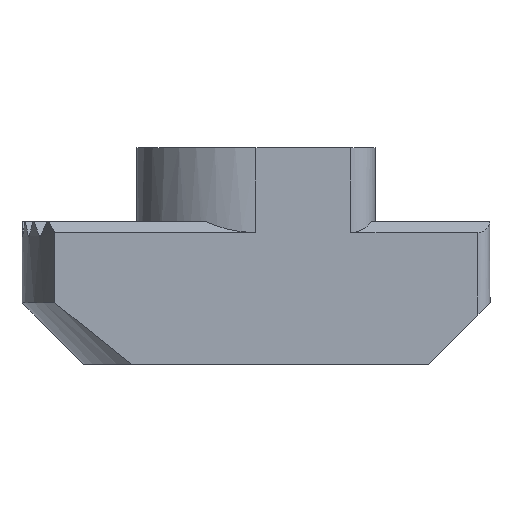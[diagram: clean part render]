
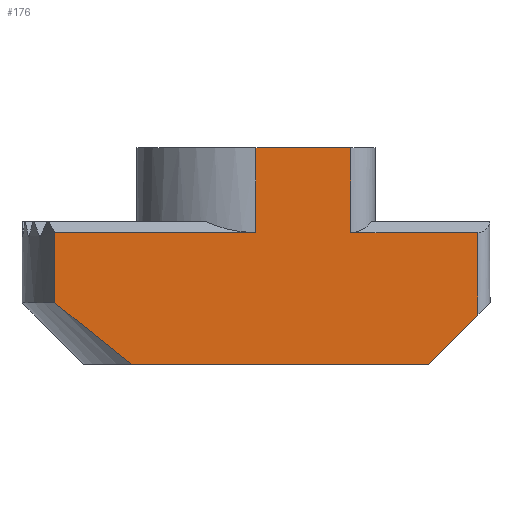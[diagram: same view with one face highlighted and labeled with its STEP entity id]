
A CAD part, front view. The second image highlights one B-rep face of the part: STEP entity #176.
In plain terms, the highlighted planar face has unit normal (0, -1, 0).
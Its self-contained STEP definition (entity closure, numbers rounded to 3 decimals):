
#53 = EDGE_CURVE ( 'NONE', #2340, #326, #634, .T. ) ;
#103 = LINE ( 'NONE', #2466, #2059 ) ;
#122 = VECTOR ( 'NONE', #1669, 1000. ) ;
#176 = ADVANCED_FACE ( 'NONE', ( #2188 ), #913, .T. ) ;
#222 = CARTESIAN_POINT ( 'NONE',  ( 3.85, -4.85, -0.45 ) ) ;
#326 = VERTEX_POINT ( 'NONE', #1154 ) ;
#344 = CARTESIAN_POINT ( 'NONE',  ( 0., -4.85, 3. ) ) ;
#381 = EDGE_CURVE ( 'NONE', #842, #902, #1631, .T. ) ;
#403 = VERTEX_POINT ( 'NONE', #2659 ) ;
#421 = DIRECTION ( 'NONE',  ( -0.78, 0., 0.625 ) ) ;
#461 = DIRECTION ( 'NONE',  ( 0., 0., -1. ) ) ;
#550 = EDGE_LOOP ( 'NONE', ( #1269, #1195, #2757, #2193, #1833, #1851, #1048, #2338, #738, #887 ) ) ;
#575 = LINE ( 'NONE', #778, #1423 ) ;
#634 = LINE ( 'NONE', #1650, #1197 ) ;
#635 = LINE ( 'NONE', #2083, #122 ) ;
#672 = EDGE_CURVE ( 'NONE', #1309, #2043, #2206, .T. ) ;
#694 = DIRECTION ( 'NONE',  ( 1., 0., 0. ) ) ;
#706 = DIRECTION ( 'NONE',  ( 0., 0., -1. ) ) ;
#738 = ORIENTED_EDGE ( 'NONE', *, *, #53, .F. ) ;
#773 = CARTESIAN_POINT ( 'NONE',  ( 0., -4.85, -0.45 ) ) ;
#778 = CARTESIAN_POINT ( 'NONE',  ( -8.169, -4.85, -3.3 ) ) ;
#806 = DIRECTION ( 'NONE',  ( 0., 0., 1. ) ) ;
#839 = CARTESIAN_POINT ( 'NONE',  ( 9., -4.85, -3.8 ) ) ;
#842 = VERTEX_POINT ( 'NONE', #1872 ) ;
#856 = VECTOR ( 'NONE', #1873, 1000. ) ;
#887 = ORIENTED_EDGE ( 'NONE', *, *, #2636, .T. ) ;
#902 = VERTEX_POINT ( 'NONE', #222 ) ;
#913 = PLANE ( 'NONE',  #1826 ) ;
#920 = DIRECTION ( 'NONE',  ( 0., -1., 0. ) ) ;
#935 = VECTOR ( 'NONE', #1440, 1000. ) ;
#956 = VERTEX_POINT ( 'NONE', #1276 ) ;
#1048 = ORIENTED_EDGE ( 'NONE', *, *, #672, .T. ) ;
#1053 = LINE ( 'NONE', #1069, #2723 ) ;
#1069 = CARTESIAN_POINT ( 'NONE',  ( 9., -4.85, 5.8 ) ) ;
#1122 = LINE ( 'NONE', #1987, #2729 ) ;
#1152 = DIRECTION ( 'NONE',  ( 1., 0., 0. ) ) ;
#1154 = CARTESIAN_POINT ( 'NONE',  ( -8.169, -4.85, -3.3 ) ) ;
#1191 = CARTESIAN_POINT ( 'NONE',  ( -8.169, -4.85, -0.45 ) ) ;
#1195 = ORIENTED_EDGE ( 'NONE', *, *, #2145, .F. ) ;
#1197 = VECTOR ( 'NONE', #421, 1000. ) ;
#1200 = DIRECTION ( 'NONE',  ( -1., 0., 0. ) ) ;
#1227 = EDGE_CURVE ( 'NONE', #403, #2469, #635, .T. ) ;
#1269 = ORIENTED_EDGE ( 'NONE', *, *, #1227, .T. ) ;
#1276 = CARTESIAN_POINT ( 'NONE',  ( 0., -4.85, 3. ) ) ;
#1309 = VERTEX_POINT ( 'NONE', #1515 ) ;
#1331 = CARTESIAN_POINT ( 'NONE',  ( 3.85, -4.85, 3. ) ) ;
#1371 = VERTEX_POINT ( 'NONE', #1331 ) ;
#1423 = VECTOR ( 'NONE', #806, 1000. ) ;
#1440 = DIRECTION ( 'NONE',  ( 0., 0., -1. ) ) ;
#1515 = CARTESIAN_POINT ( 'NONE',  ( 0., -4.85, -0.45 ) ) ;
#1607 = VECTOR ( 'NONE', #1200, 1000. ) ;
#1631 = LINE ( 'NONE', #773, #1607 ) ;
#1650 = CARTESIAN_POINT ( 'NONE',  ( -5.048, -4.85, -5.8 ) ) ;
#1669 = DIRECTION ( 'NONE',  ( 0.707, 0., 0.707 ) ) ;
#1677 = LINE ( 'NONE', #2270, #856 ) ;
#1766 = DIRECTION ( 'NONE',  ( -1., 0., 0. ) ) ;
#1770 = CARTESIAN_POINT ( 'NONE',  ( 0., -4.85, 0. ) ) ;
#1783 = VECTOR ( 'NONE', #1766, 1000. ) ;
#1826 = AXIS2_PLACEMENT_3D ( 'NONE', #1770, #920, #706 ) ;
#1833 = ORIENTED_EDGE ( 'NONE', *, *, #2553, .F. ) ;
#1851 = ORIENTED_EDGE ( 'NONE', *, *, #2002, .T. ) ;
#1872 = CARTESIAN_POINT ( 'NONE',  ( 9., -4.85, -0.45 ) ) ;
#1873 = DIRECTION ( 'NONE',  ( 0., 0., -1. ) ) ;
#1987 = CARTESIAN_POINT ( 'NONE',  ( 0., -4.85, 3. ) ) ;
#2002 = EDGE_CURVE ( 'NONE', #956, #1309, #2312, .T. ) ;
#2043 = VERTEX_POINT ( 'NONE', #1191 ) ;
#2059 = VECTOR ( 'NONE', #1152, 1000. ) ;
#2060 = EDGE_CURVE ( 'NONE', #1371, #902, #1677, .T. ) ;
#2083 = CARTESIAN_POINT ( 'NONE',  ( 7., -4.85, -5.8 ) ) ;
#2145 = EDGE_CURVE ( 'NONE', #842, #2469, #1053, .T. ) ;
#2188 = FACE_OUTER_BOUND ( 'NONE', #550, .T. ) ;
#2193 = ORIENTED_EDGE ( 'NONE', *, *, #2060, .F. ) ;
#2206 = LINE ( 'NONE', #2662, #1783 ) ;
#2266 = EDGE_CURVE ( 'NONE', #326, #2043, #575, .T. ) ;
#2270 = CARTESIAN_POINT ( 'NONE',  ( 3.85, -4.85, 3. ) ) ;
#2312 = LINE ( 'NONE', #344, #935 ) ;
#2338 = ORIENTED_EDGE ( 'NONE', *, *, #2266, .F. ) ;
#2340 = VERTEX_POINT ( 'NONE', #2494 ) ;
#2466 = CARTESIAN_POINT ( 'NONE',  ( -5.048, -4.85, -5.8 ) ) ;
#2469 = VERTEX_POINT ( 'NONE', #839 ) ;
#2494 = CARTESIAN_POINT ( 'NONE',  ( -5.048, -4.85, -5.8 ) ) ;
#2553 = EDGE_CURVE ( 'NONE', #956, #1371, #1122, .T. ) ;
#2636 = EDGE_CURVE ( 'NONE', #2340, #403, #103, .T. ) ;
#2659 = CARTESIAN_POINT ( 'NONE',  ( 7., -4.85, -5.8 ) ) ;
#2662 = CARTESIAN_POINT ( 'NONE',  ( 0., -4.85, -0.45 ) ) ;
#2723 = VECTOR ( 'NONE', #461, 1000. ) ;
#2729 = VECTOR ( 'NONE', #694, 1000. ) ;
#2757 = ORIENTED_EDGE ( 'NONE', *, *, #381, .T. ) ;
